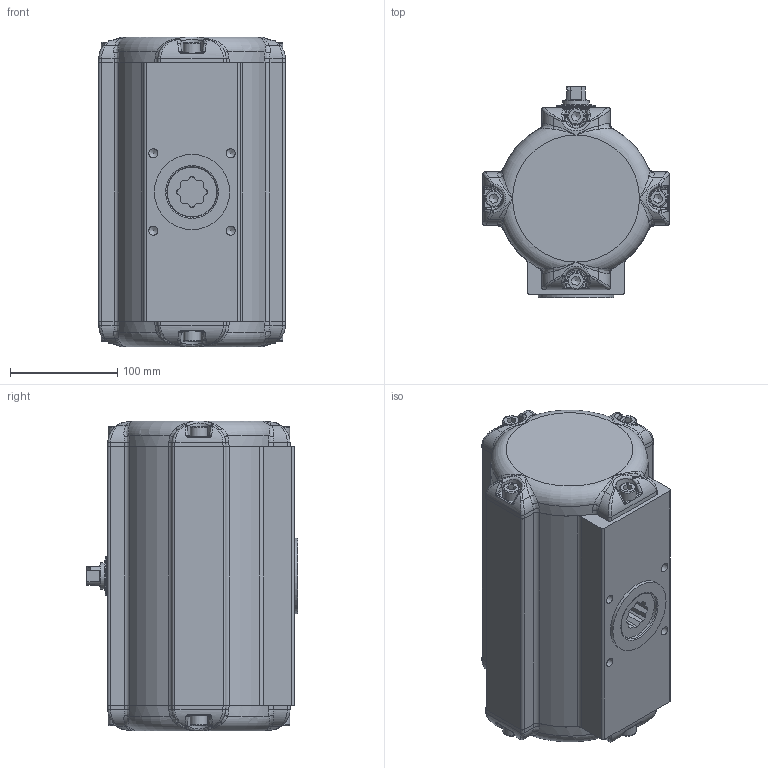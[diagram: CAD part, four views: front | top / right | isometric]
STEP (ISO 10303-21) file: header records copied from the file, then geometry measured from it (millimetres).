
FILE_DESCRIPTION((''),'2;1');
FILE_NAME('C:\Dokumente und Einstellungen\ko-p\Desktop\SAD_30-135°_BR03.stp','2011-02-02T09:14:19',('war'),(''),'Autodesk Inventor 2010','Autodesk Inventor 2010','');
FILE_SCHEMA(('AUTOMOTIVE_DESIGN { 1 0 10303 214 1 1 1 1 }'));
Length unit declared in the file: millimetre
Products named in the file (1): ENG-041767_Konturvereinfachung_2
Bounding box: 174 x 196.8 x 288.4 mm (x, y, z)
Surface area: 254706.4 mm2 (no closed solid volume)
Topology: 0 solids, 19 shells, 538 faces, 1565 edges, 989 vertices
Faces by surface type: bspline 214, plane 168, cylinder 115, cone 24, torus 17
Full cylindrical faces by diameter (mm): 16 x8, 20 x1, 24.8 x1, 36 x1, 47 x1, 70 x1
Entity records: 23524 total; most frequent: CARTESIAN_POINT 10711, ORIENTED_EDGE 2575, DIRECTION 2149, EDGE_CURVE 1435, VERTEX_POINT 950, AXIS2_PLACEMENT_3D 826, EDGE_LOOP 640, FACE_OUTER_BOUND 538
